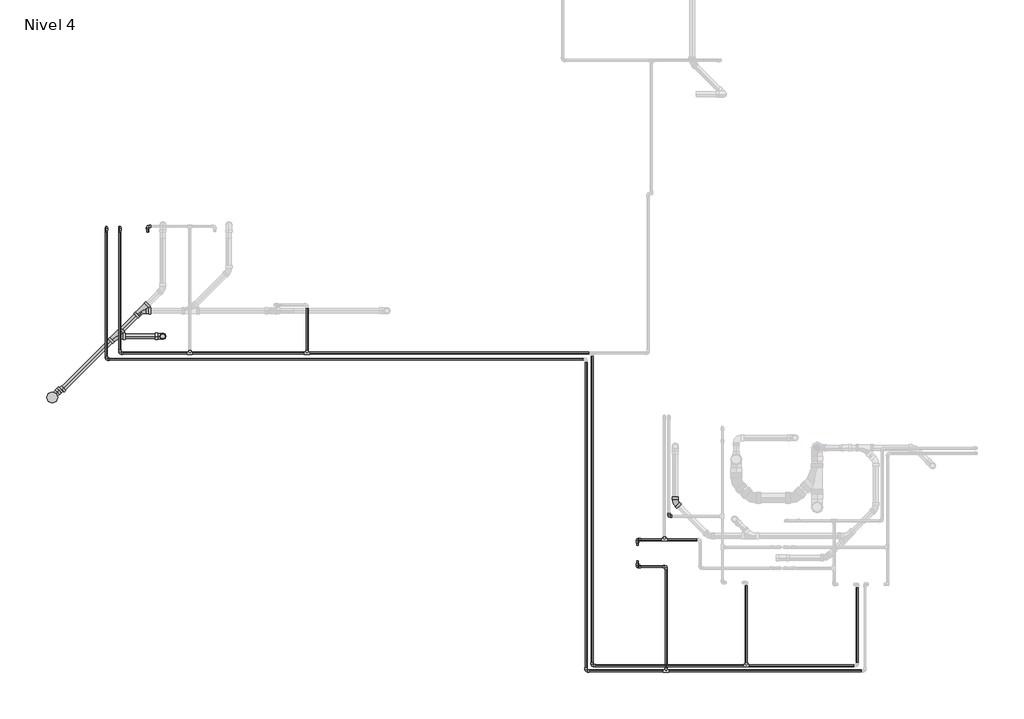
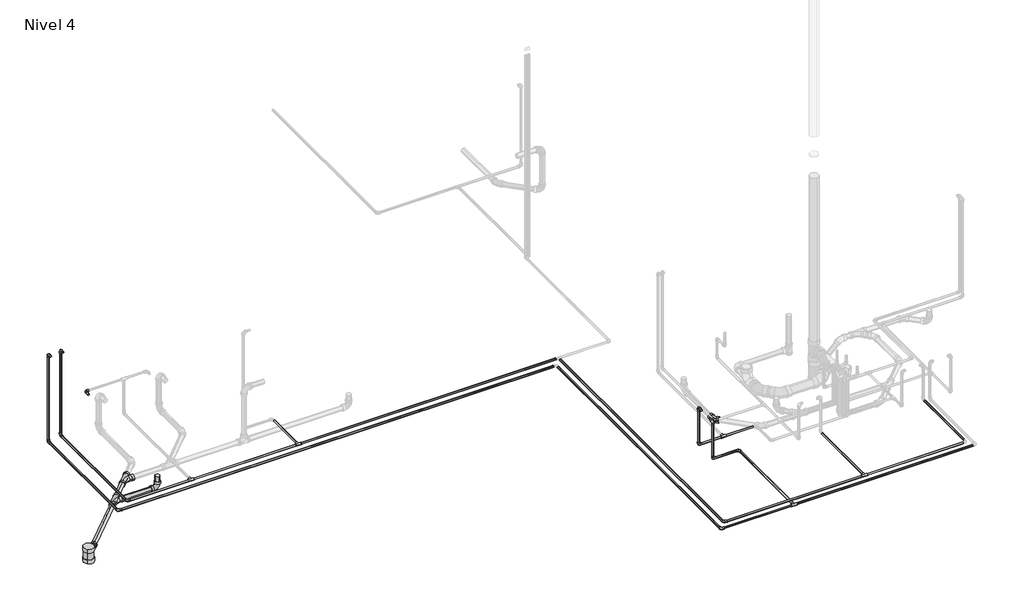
# One storey, part 1 of 9: 32 pipe segments, 26 pipe fittings.
"""IFC4 building model written with IfcOpenShell, lengths in millimetres."""

from ifc_helpers import new_model, si_unit, point, frame, frame_2d, origin, place, context, project, spatial, circle_curve, trimmed, segment, composite_curve, outline, extrude, transform, mapped, element, save
from components import pipe_fitting_ab418b84, pipe_fitting_0163322b, pipe_fitting_f7ed332b, m_codo_pvc_serie_40_9ad74631, m_codo_pvc_serie_40_dwv1_5c0ec739, m_codo_pvc_serie_40_dwv1_6f1a2495, m_reductor_pvc_serie_40_dwv1_ff30086d

model = new_model("IFC4")

# Units and contexts
model_context = context("Model", 3, world=origin())
ifc_project = project(units=[si_unit("LENGTHUNIT", "METRE", prefix="MILLI")], contexts=[model_context])

# Site, building, storey
site = spatial("IfcSite", under=ifc_project)
building = spatial("IfcBuilding", under=site)
storey = spatial("IfcBuildingStorey", under=building, Name="Nivel 4", Elevation=8100.0)

# Pipe fittings
placement = place(None, origin())
pipe_fitting_shape = pipe_fitting_ab418b84(model_context)
element("IfcPipeFitting", 1, ObjectType="M_Te - PVC - Serie 40 : Estándar", at=placement, inside=storey, context=model_context, shape_type="MappedRepresentation", body=[
    mapped(pipe_fitting_shape, transform((1725.1353284, 7617.0181394, 8050.0), x_axis=(1.0, 0.0, 0.0), y_axis=(0.0, -1.0, 0.0), z_axis=(0.0, 0.0, -1.0))),
])
element("IfcPipeFitting", 2, ObjectType="M_Te - PVC - Serie 40 : Estándar", at=placement, inside=storey, context=model_context, shape_type="MappedRepresentation", body=[
    mapped(pipe_fitting_shape, transform((411.6630441, 7617.0181394, 8050.0), x_axis=(1.0, 0.0, 0.0), y_axis=(0.0, -1.0, 0.0), z_axis=(0.0, 0.0, -1.0))),
])
element("IfcPipeFitting", 3, ObjectType="M_Te - PVC - Serie 40 : Estándar", at=placement, inside=storey, context=model_context, shape_type="MappedRepresentation", body=[
    mapped(pipe_fitting_shape, transform((6640.0882468, 4117.0181394, 8050.0), x_axis=(-1.0, 0.0, 0.0), y_axis=(0.0, -1.0, 0.0), z_axis=(0.0, 0.0, 1.0))),
])
element("IfcPipeFitting", 4, ObjectType="M_Te - PVC - Serie 40 : Estándar", at=placement, inside=storey, context=model_context, shape_type="MappedRepresentation", body=[
    mapped(pipe_fitting_shape, transform((5743.2442783, 4058.5261191, 8020.0), x_axis=(-1.0, 0.0, 0.0), y_axis=(0.0, -1.0, 0.0), z_axis=(0.0, 0.0, 1.0))),
])
element("IfcPipeFitting", 5, ObjectType="M_Te - PVC - Serie 40 : Estándar", at=placement, inside=storey, context=model_context, shape_type="MappedRepresentation", body=[
    mapped(pipe_fitting_shape, transform((5723.2442783, 5526.6215833, 8020.0), x_axis=(-1.0, 0.0, 0.0), y_axis=(0.0, -1.0, 0.0), z_axis=(0.0, 0.0, 1.0))),
])
pipe_fitting_2_shape = pipe_fitting_0163322b(model_context)
element("IfcPipeFitting", 6, ObjectType="M_Sanitario con te de reducción - PVC - Serie 40 - DWV : Estándar", at=placement, inside=storey, context=model_context, shape_type="MappedRepresentation", body=[
    mapped(pipe_fitting_2_shape, transform((-133.7971122, 8091.4220022, 7950.0), x_axis=(0.7071067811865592, 0.7071067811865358, 0.0), y_axis=(-0.7071067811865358, 0.7071067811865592, 0.0), z_axis=(0.0, 0.0, 1.0))),
])
element("IfcPipeFitting", 7, ObjectType="M_Sanitario con te de reducción - PVC - Serie 40 - DWV : Estándar", at=placement, inside=storey, context=model_context, shape_type="MappedRepresentation", body=[
    mapped(pipe_fitting_2_shape, transform((-420.2517933, 7804.9673212, 7950.0), x_axis=(0.707106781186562, 0.707106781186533, 0.0), y_axis=(-0.707106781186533, 0.707106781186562, 0.0), z_axis=(0.0, 0.0, 1.0))),
])
pipe_fitting_3_shape = pipe_fitting_f7ed332b(model_context)
element("IfcPipeFitting", 8, ObjectType="M_Sanitario con te de reducción - PVC - Serie 40 - DWV : Estándar", at=placement, inside=storey, context=model_context, shape_type="MappedRepresentation", body=[
    mapped(pipe_fitting_3_shape, transform((-1128.3876566, 7119.3043981, 7950.0), x_axis=(0.0, 0.0, 1.0), y_axis=(-0.7071067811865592, -0.7071067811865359, 0.0), z_axis=(0.7071067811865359, -0.7071067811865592, 0.0))),
])
m_codo_pvc_serie_40_shape = m_codo_pvc_serie_40_9ad74631(model_context)
element("IfcPipeFitting", 9, ObjectType="M_Codo - PVC - Serie 40 : Estándar", at=placement, inside=storey, context=model_context, shape_type="MappedRepresentation", body=[
    mapped(m_codo_pvc_serie_40_shape, transform((-58.7971122, 9037.0181394, 8500.0), x_axis=(-1.0, 0.0, 0.0), y_axis=(0.0, -1.0, 0.0), z_axis=(0.0, 0.0, 1.0))),
])
element("IfcPipeFitting", 10, ObjectType="M_Codo - PVC - Serie 40 : Estándar", at=placement, inside=storey, context=model_context, shape_type="MappedRepresentation", body=[
    mapped(m_codo_pvc_serie_40_shape, transform((4915.0072403, 4117.0181394, 8050.0), x_axis=(0.0, -1.0, 0.0), y_axis=(1.0, 0.0, 0.0), z_axis=(0.0, 0.0, 1.0))),
])
element("IfcPipeFitting", 11, ObjectType="M_Codo - PVC - Serie 40 : Estándar", at=placement, inside=storey, context=model_context, shape_type="MappedRepresentation", body=[
    mapped(m_codo_pvc_serie_40_shape, transform((5773.4849581, 5788.5620607, 8050.0), x_axis=(0.0, -1.0, 0.0), y_axis=(1.0, 0.0, 0.0), z_axis=(0.0, 0.0, 1.0))),
])
element("IfcPipeFitting", 12, ObjectType="M_Codo - PVC - Serie 40 : Estándar", at=placement, inside=storey, context=model_context, shape_type="MappedRepresentation", body=[
    mapped(m_codo_pvc_serie_40_shape, transform((4848.2736664, 4058.5261191, 8020.0), x_axis=(0.0, -1.0, 0.0), y_axis=(1.0, 0.0, 0.0), z_axis=(0.0, 0.0, 1.0))),
])
element("IfcPipeFitting", 13, ObjectType="M_Codo - PVC - Serie 40 : Estándar", at=placement, inside=storey, context=model_context, shape_type="MappedRepresentation", body=[
    mapped(m_codo_pvc_serie_40_shape, transform((5743.2442783, 5226.6215833, 8020.0), x_axis=(0.0, 1.0, 0.0), y_axis=(-1.0, 0.0, 0.0), z_axis=(0.0, 0.0, 1.0))),
])
element("IfcPipeFitting", 14, ObjectType="M_Codo - PVC - Serie 40 : Estándar", at=placement, inside=storey, context=model_context, shape_type="MappedRepresentation", body=[
    mapped(m_codo_pvc_serie_40_shape, transform((5423.2442783, 5226.6215833, 8020.0), x_axis=(-1.0, 0.0, 0.0), y_axis=(0.0, 0.0, 1.0), z_axis=(0.0, 1.0, 0.0))),
])
element("IfcPipeFitting", 15, ObjectType="M_Codo - PVC - Serie 40 : Estándar", at=placement, inside=storey, context=model_context, shape_type="MappedRepresentation", body=[
    mapped(m_codo_pvc_serie_40_shape, transform((5423.2442783, 5226.6215833, 8500.0), x_axis=(0.0, 0.0, 1.0), y_axis=(0.0, 1.0, 0.0), z_axis=(-1.0, 0.0, 0.0))),
])
element("IfcPipeFitting", 16, ObjectType="M_Codo - PVC - Serie 40 : Estándar", at=placement, inside=storey, context=model_context, shape_type="MappedRepresentation", body=[
    mapped(m_codo_pvc_serie_40_shape, transform((5423.2442783, 5526.6215833, 8500.0), x_axis=(0.0, 1.0, 0.0), y_axis=(0.0, 0.0, -1.0), z_axis=(-1.0, 0.0, 0.0))),
])
element("IfcPipeFitting", 17, ObjectType="M_Codo - PVC - Serie 40 : Estándar", at=placement, inside=storey, context=model_context, shape_type="MappedRepresentation", body=[
    mapped(m_codo_pvc_serie_40_shape, transform((5423.2442783, 5526.6215833, 8020.0), x_axis=(0.0, 0.0, -1.0), y_axis=(1.0, 0.0, 0.0), z_axis=(0.0, -1.0, 0.0))),
])
element("IfcPipeFitting", 18, ObjectType="M_Codo - PVC - Serie 40 : Estándar", at=placement, inside=storey, context=model_context, shape_type="MappedRepresentation", body=[
    mapped(m_codo_pvc_serie_40_shape, transform((-371.1059876, 9024.8728829, 9150.0), x_axis=(0.0, 1.0, 0.0), y_axis=(0.0, 0.0, -1.0), z_axis=(-1.0, 0.0, 0.0))),
])
element("IfcPipeFitting", 19, ObjectType="M_Codo - PVC - Serie 40 : Estándar", at=placement, inside=storey, context=model_context, shape_type="MappedRepresentation", body=[
    mapped(m_codo_pvc_serie_40_shape, transform((-371.1059876, 9024.8728829, 8050.0), x_axis=(0.0, 0.0, -1.0), y_axis=(0.0, -1.0, 0.0), z_axis=(-1.0, 0.0, 0.0))),
])
element("IfcPipeFitting", 20, ObjectType="M_Codo - PVC - Serie 40 : Estándar", at=placement, inside=storey, context=model_context, shape_type="MappedRepresentation", body=[
    mapped(m_codo_pvc_serie_40_shape, transform((-521.1059876, 9024.8728829, 9150.0), x_axis=(0.0, 1.0, 0.0), y_axis=(0.0, 0.0, -1.0), z_axis=(-1.0, 0.0, 0.0))),
])
element("IfcPipeFitting", 21, ObjectType="M_Codo - PVC - Serie 40 : Estándar", at=placement, inside=storey, context=model_context, shape_type="MappedRepresentation", body=[
    mapped(m_codo_pvc_serie_40_shape, transform((-521.1059876, 9024.8728829, 8020.0), x_axis=(0.0, 0.0, -1.0), y_axis=(0.0, -1.0, 0.0), z_axis=(-1.0, 0.0, 0.0))),
])
element("IfcPipeFitting", 22, ObjectType="M_Codo - PVC - Serie 40 : Estándar", at=placement, inside=storey, context=model_context, shape_type="MappedRepresentation", body=[
    mapped(m_codo_pvc_serie_40_shape, transform((-521.1059876, 7548.5261191, 8020.0), x_axis=(0.0, -1.0, 0.0), y_axis=(1.0, 0.0, 0.0), z_axis=(0.0, 0.0, 1.0))),
])
element("IfcPipeFitting", 23, ObjectType="M_Codo - PVC - Serie 40 : Estándar", at=placement, inside=storey, context=model_context, shape_type="MappedRepresentation", body=[
    mapped(m_codo_pvc_serie_40_shape, transform((-371.1059876, 7617.0181394, 8050.0), x_axis=(0.0, -1.0, 0.0), y_axis=(1.0, 0.0, 0.0), z_axis=(0.0, 0.0, 1.0))),
])
m_codo_pvc_serie_40_dwv1_shape = m_codo_pvc_serie_40_dwv1_5c0ec739(model_context)
element("IfcPipeFitting", 24, ObjectType="M_Codo - PVC - Serie 40 - DWV1 : Estándar 2", at=placement, inside=storey, context=model_context, shape_type="MappedRepresentation", body=[
    mapped(m_codo_pvc_serie_40_dwv1_shape, transform((109.5958692, 7804.9673212, 7950.0), x_axis=(1.0, 0.0, 0.0), y_axis=(0.0, 0.0, 1.0), z_axis=(0.0, -1.0, 0.0))),
])
m_codo_pvc_serie_40_dwv1_2_shape = m_codo_pvc_serie_40_dwv1_6f1a2495(model_context)
element("IfcPipeFitting", 25, ObjectType="M_Codo - PVC - Serie 40 - DWV1 : Estándar 2", at=placement, inside=storey, context=model_context, shape_type="MappedRepresentation", body=[
    mapped(m_codo_pvc_serie_40_dwv1_2_shape, transform((5845.3355737, 5944.0282832, 7950.0), x_axis=(0.0, -1.0, 0.0), y_axis=(1.0, 0.0, 0.0), z_axis=(0.0, 0.0, 1.0))),
])
m_reductor_pvc_serie_40_dwv1_shape = m_reductor_pvc_serie_40_dwv1_ff30086d(model_context)
element("IfcPipeFitting", 26, ObjectType="M_Reductor - PVC - Serie 40 - DWV1 : Estándar 2", at=placement, inside=storey, context=model_context, shape_type="MappedRepresentation", body=[
    mapped(m_reductor_pvc_serie_40_dwv1_shape, transform((-1051.5138579, 7196.1781968, 7950.0), x_axis=(0.7071067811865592, 0.7071067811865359, 0.0), y_axis=(-0.7071067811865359, 0.7071067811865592, 0.0), z_axis=(0.0, 0.0, 1.0))),
])

# Pipe segments
element("IfcPipeSegment", 27, ObjectType="Tuberia PVC Agua Fria", at=placement, inside=storey, context=model_context, shape_type="SweptSolid", body=[
    extrude(outline(composite_curve([segment(trimmed(circle_curve(frame_2d((8050.0, 1725.1353284)), 10.31875), [point((8050.0, 1735.4540784))], [point((8060.31875, 1725.1353284))], False, "CARTESIAN"), True, "CONTINUOUS"), segment(trimmed(circle_curve(frame_2d((8050.0, 1725.1353284)), 10.31875), [point((8060.31875, 1725.1353284))], [point((8050.0, 1714.8165784))], False, "CARTESIAN"), True, "CONTINUOUS"), segment(trimmed(circle_curve(frame_2d((8050.0, 1725.1353284)), 10.31875), [point((8050.0, 1714.8165784))], [point((8039.68125, 1725.1353284))], False, "CARTESIAN"), True, "CONTINUOUS"), segment(trimmed(circle_curve(frame_2d((8050.0, 1725.1353284)), 10.31875), [point((8039.68125, 1725.1353284))], [point((8050.0, 1735.4540784))], False, "CARTESIAN"), True, "CONTINUOUS")], self_intersect=False)), frame((0.0, 7647.4782956, 0.0), z_axis=(0.0, 1.0, 0.0), x_axis=(0.0, 0.0, 1.0)), (0.0, 0.0, 1.0), 476.1388438),
])
element("IfcPipeSegment", 28, ObjectType="Tuberia PVC Agua Fria", at=placement, inside=storey, context=model_context, shape_type="SweptSolid", body=[
    extrude(outline(composite_curve([segment(trimmed(circle_curve(frame_2d((7617.0181394, 8050.0)), 10.31875), [point((7627.3368894, 8050.0))], [point((7617.0181394, 8039.68125))], False, "CARTESIAN"), True, "CONTINUOUS"), segment(trimmed(circle_curve(frame_2d((7617.0181394, 8050.0)), 10.31875), [point((7617.0181394, 8039.68125))], [point((7606.6993894, 8050.0))], False, "CARTESIAN"), True, "CONTINUOUS"), segment(trimmed(circle_curve(frame_2d((7617.0181394, 8050.0)), 10.31875), [point((7606.6993894, 8050.0))], [point((7617.0181394, 8060.31875))], False, "CARTESIAN"), True, "CONTINUOUS"), segment(trimmed(circle_curve(frame_2d((7617.0181394, 8050.0)), 10.31875), [point((7617.0181394, 8060.31875))], [point((7627.3368894, 8050.0))], False, "CARTESIAN"), True, "CONTINUOUS")], self_intersect=False)), frame((1755.5954847, 0.0, 0.0), z_axis=(1.0, 0.0, 0.0), x_axis=(0.0, 1.0, 0.0)), (0.0, 0.0, 1.0), 3128.9515994),
])
element("IfcPipeSegment", 29, ObjectType="Tuberia PVC Agua Fria", at=placement, inside=storey, context=model_context, shape_type="SweptSolid", body=[
    extrude(outline(composite_curve([segment(trimmed(circle_curve(frame_2d((7617.0181394, 8050.0)), 10.31875), [point((7627.3368894, 8050.0))], [point((7617.0181394, 8039.68125))], False, "CARTESIAN"), True, "CONTINUOUS"), segment(trimmed(circle_curve(frame_2d((7617.0181394, 8050.0)), 10.31875), [point((7617.0181394, 8039.68125))], [point((7606.6993894, 8050.0))], False, "CARTESIAN"), True, "CONTINUOUS"), segment(trimmed(circle_curve(frame_2d((7617.0181394, 8050.0)), 10.31875), [point((7606.6993894, 8050.0))], [point((7617.0181394, 8060.31875))], False, "CARTESIAN"), True, "CONTINUOUS"), segment(trimmed(circle_curve(frame_2d((7617.0181394, 8050.0)), 10.31875), [point((7617.0181394, 8060.31875))], [point((7627.3368894, 8050.0))], False, "CARTESIAN"), True, "CONTINUOUS")], self_intersect=False)), frame((-337.7049876, 0.0, 0.0), z_axis=(1.0, 0.0, 0.0), x_axis=(0.0, 1.0, 0.0)), (0.0, 0.0, 1.0), 718.9078754),
])
element("IfcPipeSegment", 30, ObjectType="Tuberia PVC Agua Fria", at=placement, inside=storey, context=model_context, shape_type="SweptSolid", body=[
    extrude(outline(composite_curve([segment(trimmed(circle_curve(frame_2d((8050.0, -371.1059876)), 10.31875), [point((8050.0, -381.4247376))], [point((8039.68125, -371.1059876))], False, "CARTESIAN"), True, "CONTINUOUS"), segment(trimmed(circle_curve(frame_2d((8050.0, -371.1059876)), 10.31875), [point((8039.68125, -371.1059876))], [point((8050.0, -360.7872376))], False, "CARTESIAN"), True, "CONTINUOUS"), segment(trimmed(circle_curve(frame_2d((8050.0, -371.1059876)), 10.31875), [point((8050.0, -360.7872376))], [point((8060.31875, -371.1059876))], False, "CARTESIAN"), True, "CONTINUOUS"), segment(trimmed(circle_curve(frame_2d((8050.0, -371.1059876)), 10.31875), [point((8060.31875, -371.1059876))], [point((8050.0, -381.4247376))], False, "CARTESIAN"), True, "CONTINUOUS")], self_intersect=False)), frame((0.0, 7650.4191394, 0.0), z_axis=(0.0, 1.0, 0.0), x_axis=(0.0, 0.0, 1.0)), (0.0, 0.0, 1.0), 1341.0527435),
])
element("IfcPipeSegment", 31, ObjectType="Tuberia PVC Agua Fria", at=placement, inside=storey, context=model_context, shape_type="SweptSolid", body=[
    extrude(outline(composite_curve([segment(trimmed(circle_curve(frame_2d((7617.0181394, 8050.0)), 10.31875), [point((7627.3368894, 8050.0))], [point((7617.0181394, 8039.68125))], False, "CARTESIAN"), True, "CONTINUOUS"), segment(trimmed(circle_curve(frame_2d((7617.0181394, 8050.0)), 10.31875), [point((7617.0181394, 8039.68125))], [point((7606.6993894, 8050.0))], False, "CARTESIAN"), True, "CONTINUOUS"), segment(trimmed(circle_curve(frame_2d((7617.0181394, 8050.0)), 10.31875), [point((7606.6993894, 8050.0))], [point((7617.0181394, 8060.31875))], False, "CARTESIAN"), True, "CONTINUOUS"), segment(trimmed(circle_curve(frame_2d((7617.0181394, 8050.0)), 10.31875), [point((7617.0181394, 8060.31875))], [point((7627.3368894, 8050.0))], False, "CARTESIAN"), True, "CONTINUOUS")], self_intersect=False)), frame((442.1232003, 0.0, 0.0), z_axis=(1.0, 0.0, 0.0), x_axis=(0.0, 1.0, 0.0)), (0.0, 0.0, 1.0), 1252.5519718),
])
element("IfcPipeSegment", 32, ObjectType="Tuberia PVC Agua Fria", at=placement, inside=storey, context=model_context, shape_type="SweptSolid", body=[
    extrude(outline(composite_curve([segment(trimmed(circle_curve(frame_2d((8500.0, -58.7971122)), 10.31875), [point((8500.0, -69.1158622))], [point((8489.68125, -58.7971122))], False, "CARTESIAN"), True, "CONTINUOUS"), segment(trimmed(circle_curve(frame_2d((8500.0, -58.7971122)), 10.31875), [point((8489.68125, -58.7971122))], [point((8500.0, -48.4783622))], False, "CARTESIAN"), True, "CONTINUOUS"), segment(trimmed(circle_curve(frame_2d((8500.0, -58.7971122)), 10.31875), [point((8500.0, -48.4783622))], [point((8510.31875, -58.7971122))], False, "CARTESIAN"), True, "CONTINUOUS"), segment(trimmed(circle_curve(frame_2d((8500.0, -58.7971122)), 10.31875), [point((8510.31875, -58.7971122))], [point((8500.0, -69.1158622))], False, "CARTESIAN"), True, "CONTINUOUS")], self_intersect=False)), frame((0.0, 8972.0181394, 0.0), z_axis=(0.0, 1.0, 0.0), x_axis=(0.0, 0.0, 1.0)), (0.0, 0.0, 1.0), 31.599),
])
element("IfcPipeSegment", 33, ObjectType="Tuberia PVC Agua Fria", at=placement, inside=storey, context=model_context, shape_type="SweptSolid", body=[
    extrude(outline(composite_curve([segment(trimmed(circle_curve(frame_2d((8050.0, 4915.0072403)), 10.31875), [point((8050.0, 4904.6884903))], [point((8039.68125, 4915.0072403))], False, "CARTESIAN"), True, "CONTINUOUS"), segment(trimmed(circle_curve(frame_2d((8050.0, 4915.0072403)), 10.31875), [point((8039.68125, 4915.0072403))], [point((8050.0, 4925.3259903))], False, "CARTESIAN"), True, "CONTINUOUS"), segment(trimmed(circle_curve(frame_2d((8050.0, 4915.0072403)), 10.31875), [point((8050.0, 4925.3259903))], [point((8060.31875, 4915.0072403))], False, "CARTESIAN"), True, "CONTINUOUS"), segment(trimmed(circle_curve(frame_2d((8050.0, 4915.0072403)), 10.31875), [point((8060.31875, 4915.0072403))], [point((8050.0, 4904.6884903))], False, "CARTESIAN"), True, "CONTINUOUS")], self_intersect=False)), frame((0.0, 4150.4191394, 0.0), z_axis=(0.0, 1.0, 0.0), x_axis=(0.0, 0.0, 1.0)), (0.0, 0.0, 1.0), 3436.1388437),
])
element("IfcPipeSegment", 34, ObjectType="Tuberia PVC Agua Fria", at=placement, inside=storey, context=model_context, shape_type="SweptSolid", body=[
    extrude(outline(composite_curve([segment(trimmed(circle_curve(frame_2d((4117.0181394, 8050.0)), 10.31875), [point((4127.3368894, 8050.0))], [point((4117.0181394, 8039.68125))], False, "CARTESIAN"), True, "CONTINUOUS"), segment(trimmed(circle_curve(frame_2d((4117.0181394, 8050.0)), 10.31875), [point((4117.0181394, 8039.68125))], [point((4106.6993894, 8050.0))], False, "CARTESIAN"), True, "CONTINUOUS"), segment(trimmed(circle_curve(frame_2d((4117.0181394, 8050.0)), 10.31875), [point((4106.6993894, 8050.0))], [point((4117.0181394, 8060.31875))], False, "CARTESIAN"), True, "CONTINUOUS"), segment(trimmed(circle_curve(frame_2d((4117.0181394, 8050.0)), 10.31875), [point((4117.0181394, 8060.31875))], [point((4127.3368894, 8050.0))], False, "CARTESIAN"), True, "CONTINUOUS")], self_intersect=False)), frame((6670.5484031, 0.0, 0.0), z_axis=(1.0, 0.0, 0.0), x_axis=(0.0, 1.0, 0.0)), (0.0, 0.0, 1.0), 1178.9730095),
])
element("IfcPipeSegment", 35, ObjectType="Tuberia PVC Agua Fria", at=placement, inside=storey, context=model_context, shape_type="SweptSolid", body=[
    extrude(outline(composite_curve([segment(trimmed(circle_curve(frame_2d((8050.0, 6640.0882468)), 10.31875), [point((8050.0, 6650.4069968))], [point((8060.31875, 6640.0882468))], False, "CARTESIAN"), True, "CONTINUOUS"), segment(trimmed(circle_curve(frame_2d((8050.0, 6640.0882468)), 10.31875), [point((8060.31875, 6640.0882468))], [point((8050.0, 6629.7694968))], False, "CARTESIAN"), True, "CONTINUOUS"), segment(trimmed(circle_curve(frame_2d((8050.0, 6640.0882468)), 10.31875), [point((8050.0, 6629.7694968))], [point((8039.68125, 6640.0882468))], False, "CARTESIAN"), True, "CONTINUOUS"), segment(trimmed(circle_curve(frame_2d((8050.0, 6640.0882468)), 10.31875), [point((8039.68125, 6640.0882468))], [point((8050.0, 6650.4069968))], False, "CARTESIAN"), True, "CONTINUOUS")], self_intersect=False)), frame((0.0, 4147.4782956, 0.0), z_axis=(0.0, 1.0, 0.0), x_axis=(0.0, 0.0, 1.0)), (0.0, 0.0, 1.0), 866.1388437),
])
element("IfcPipeSegment", 36, ObjectType="Tuberia PVC Agua Fria", at=placement, inside=storey, context=model_context, shape_type="SweptSolid", body=[
    extrude(outline(composite_curve([segment(trimmed(circle_curve(frame_2d((4117.0181394, 8050.0)), 10.31875), [point((4106.6993894, 8050.0))], [point((4117.0181394, 8060.31875))], False, "CARTESIAN"), True, "CONTINUOUS"), segment(trimmed(circle_curve(frame_2d((4117.0181394, 8050.0)), 10.31875), [point((4117.0181394, 8060.31875))], [point((4127.3368894, 8050.0))], False, "CARTESIAN"), True, "CONTINUOUS"), segment(trimmed(circle_curve(frame_2d((4117.0181394, 8050.0)), 10.31875), [point((4127.3368894, 8050.0))], [point((4117.0181394, 8039.68125))], False, "CARTESIAN"), True, "CONTINUOUS"), segment(trimmed(circle_curve(frame_2d((4117.0181394, 8050.0)), 10.31875), [point((4117.0181394, 8039.68125))], [point((4106.6993894, 8050.0))], False, "CARTESIAN"), True, "CONTINUOUS")], self_intersect=False)), frame((4948.4082403, 0.0, 0.0), z_axis=(1.0, 0.0, 0.0), x_axis=(0.0, 1.0, 0.0)), (0.0, 0.0, 1.0), 1661.2198503),
])
element("IfcPipeSegment", 37, ObjectType="Tuberia PVC Agua Fria", at=placement, inside=storey, context=model_context, shape_type="SweptSolid", body=[
    extrude(outline(composite_curve([segment(trimmed(circle_curve(frame_2d((8050.0, 7882.9224126)), 10.31875), [point((8050.0, 7872.6036626))], [point((8039.68125, 7882.9224126))], False, "CARTESIAN"), True, "CONTINUOUS"), segment(trimmed(circle_curve(frame_2d((8050.0, 7882.9224126)), 10.31875), [point((8039.68125, 7882.9224126))], [point((8050.0, 7893.2411626))], False, "CARTESIAN"), True, "CONTINUOUS"), segment(trimmed(circle_curve(frame_2d((8050.0, 7882.9224126)), 10.31875), [point((8050.0, 7893.2411626))], [point((8060.31875, 7882.9224126))], False, "CARTESIAN"), True, "CONTINUOUS"), segment(trimmed(circle_curve(frame_2d((8050.0, 7882.9224126)), 10.31875), [point((8060.31875, 7882.9224126))], [point((8050.0, 7872.6036626))], False, "CARTESIAN"), True, "CONTINUOUS")], self_intersect=False)), frame((0.0, 4150.4191394, 0.0), z_axis=(0.0, 1.0, 0.0), x_axis=(0.0, 0.0, 1.0)), (0.0, 0.0, 1.0), 842.801444),
])
element("IfcPipeSegment", 38, ObjectType="Tuberia PVC Agua Fria", at=placement, inside=storey, context=model_context, shape_type="SweptSolid", body=[
    extrude(outline(composite_curve([segment(trimmed(circle_curve(frame_2d((9150.0, -371.1059876)), 10.31875), [point((9150.0, -360.7872376))], [point((9160.31875, -371.1059876))], False, "CARTESIAN"), True, "CONTINUOUS"), segment(trimmed(circle_curve(frame_2d((9150.0, -371.1059876)), 10.31875), [point((9160.31875, -371.1059876))], [point((9150.0, -381.4247376))], False, "CARTESIAN"), True, "CONTINUOUS"), segment(trimmed(circle_curve(frame_2d((9150.0, -371.1059876)), 10.31875), [point((9150.0, -381.4247376))], [point((9139.68125, -371.1059876))], False, "CARTESIAN"), True, "CONTINUOUS"), segment(trimmed(circle_curve(frame_2d((9150.0, -371.1059876)), 10.31875), [point((9139.68125, -371.1059876))], [point((9150.0, -360.7872376))], False, "CARTESIAN"), True, "CONTINUOUS")], self_intersect=False)), frame((0.0, 8974.8728829, 0.0), z_axis=(0.0, 1.0, 0.0), x_axis=(0.0, 0.0, 1.0)), (0.0, 0.0, 1.0), 16.599),
])
element("IfcPipeSegment", 39, ObjectType="Tuberia PVC Agua Fria", at=placement, inside=storey, context=model_context, shape_type="SweptSolid", body=[
    extrude(outline(composite_curve([segment(trimmed(circle_curve(frame_2d((-371.1059876, 9024.8728829)), 10.31875), [point((-360.7872376, 9024.8728829))], [point((-371.1059876, 9014.5541329))], False, "CARTESIAN"), True, "CONTINUOUS"), segment(trimmed(circle_curve(frame_2d((-371.1059876, 9024.8728829)), 10.31875), [point((-371.1059876, 9014.5541329))], [point((-381.4247376, 9024.8728829))], False, "CARTESIAN"), True, "CONTINUOUS"), segment(trimmed(circle_curve(frame_2d((-371.1059876, 9024.8728829)), 10.31875), [point((-381.4247376, 9024.8728829))], [point((-371.1059876, 9035.1916329))], False, "CARTESIAN"), True, "CONTINUOUS"), segment(trimmed(circle_curve(frame_2d((-371.1059876, 9024.8728829)), 10.31875), [point((-371.1059876, 9035.1916329))], [point((-360.7872376, 9024.8728829))], False, "CARTESIAN"), True, "CONTINUOUS")], self_intersect=False)), frame((0.0, 0.0, 8083.401), z_axis=(0.0, 0.0, 1.0), x_axis=(1.0, 0.0, 0.0)), (0.0, 0.0, 1.0), 1033.198),
])
element("IfcPipeSegment", 40, ObjectType="Tuberia PVC Agua Caliente", at=placement, inside=storey, context=model_context, shape_type="SweptSolid", body=[
    extrude(outline(composite_curve([segment(trimmed(circle_curve(frame_2d((8020.0, -521.1059876)), 10.31875), [point((8020.0, -531.4247376))], [point((8009.68125, -521.1059876))], False, "CARTESIAN"), True, "CONTINUOUS"), segment(trimmed(circle_curve(frame_2d((8020.0, -521.1059876)), 10.31875), [point((8009.68125, -521.1059876))], [point((8020.0, -510.7872376))], False, "CARTESIAN"), True, "CONTINUOUS"), segment(trimmed(circle_curve(frame_2d((8020.0, -521.1059876)), 10.31875), [point((8020.0, -510.7872376))], [point((8030.31875, -521.1059876))], False, "CARTESIAN"), True, "CONTINUOUS"), segment(trimmed(circle_curve(frame_2d((8020.0, -521.1059876)), 10.31875), [point((8030.31875, -521.1059876))], [point((8020.0, -531.4247376))], False, "CARTESIAN"), True, "CONTINUOUS")], self_intersect=False)), frame((0.0, 7581.9271191, 0.0), z_axis=(0.0, 1.0, 0.0), x_axis=(0.0, 0.0, 1.0)), (0.0, 0.0, 1.0), 1409.5447638),
])
element("IfcPipeSegment", 41, ObjectType="Tuberia PVC Agua Caliente", at=placement, inside=storey, context=model_context, shape_type="SweptSolid", body=[
    extrude(outline(composite_curve([segment(trimmed(circle_curve(frame_2d((7548.5261191, 8020.0)), 10.31875), [point((7538.2073691, 8020.0))], [point((7548.5261191, 8030.31875))], False, "CARTESIAN"), True, "CONTINUOUS"), segment(trimmed(circle_curve(frame_2d((7548.5261191, 8020.0)), 10.31875), [point((7548.5261191, 8030.31875))], [point((7558.8448691, 8020.0))], False, "CARTESIAN"), True, "CONTINUOUS"), segment(trimmed(circle_curve(frame_2d((7548.5261191, 8020.0)), 10.31875), [point((7558.8448691, 8020.0))], [point((7548.5261191, 8009.68125))], False, "CARTESIAN"), True, "CONTINUOUS"), segment(trimmed(circle_curve(frame_2d((7548.5261191, 8020.0)), 10.31875), [point((7548.5261191, 8009.68125))], [point((7538.2073691, 8020.0))], False, "CARTESIAN"), True, "CONTINUOUS")], self_intersect=False)), frame((-487.7049876, 0.0, 0.0), z_axis=(1.0, 0.0, 0.0), x_axis=(0.0, 1.0, 0.0)), (0.0, 0.0, 1.0), 5302.5776539),
])
element("IfcPipeSegment", 42, ObjectType="Tuberia PVC Agua Caliente", at=placement, inside=storey, context=model_context, shape_type="SweptSolid", body=[
    extrude(outline(composite_curve([segment(trimmed(circle_curve(frame_2d((8020.0, 4848.2736664)), 10.31875), [point((8020.0, 4837.9549164))], [point((8009.68125, 4848.2736664))], False, "CARTESIAN"), True, "CONTINUOUS"), segment(trimmed(circle_curve(frame_2d((8020.0, 4848.2736664)), 10.31875), [point((8009.68125, 4848.2736664))], [point((8020.0, 4858.5924164))], False, "CARTESIAN"), True, "CONTINUOUS"), segment(trimmed(circle_curve(frame_2d((8020.0, 4848.2736664)), 10.31875), [point((8020.0, 4858.5924164))], [point((8030.31875, 4848.2736664))], False, "CARTESIAN"), True, "CONTINUOUS"), segment(trimmed(circle_curve(frame_2d((8020.0, 4848.2736664)), 10.31875), [point((8030.31875, 4848.2736664))], [point((8020.0, 4837.9549164))], False, "CARTESIAN"), True, "CONTINUOUS")], self_intersect=False)), frame((0.0, 4091.9271191, 0.0), z_axis=(0.0, 1.0, 0.0), x_axis=(0.0, 0.0, 1.0)), (0.0, 0.0, 1.0), 3423.198),
])
element("IfcPipeSegment", 43, ObjectType="Tuberia PVC Agua Caliente", at=placement, inside=storey, context=model_context, shape_type="SweptSolid", body=[
    extrude(outline(composite_curve([segment(trimmed(circle_curve(frame_2d((4058.5261191, 8020.0)), 10.31875), [point((4048.2073691, 8020.0))], [point((4058.5261191, 8030.31875))], False, "CARTESIAN"), True, "CONTINUOUS"), segment(trimmed(circle_curve(frame_2d((4058.5261191, 8020.0)), 10.31875), [point((4058.5261191, 8030.31875))], [point((4068.8448691, 8020.0))], False, "CARTESIAN"), True, "CONTINUOUS"), segment(trimmed(circle_curve(frame_2d((4058.5261191, 8020.0)), 10.31875), [point((4068.8448691, 8020.0))], [point((4058.5261191, 8009.68125))], False, "CARTESIAN"), True, "CONTINUOUS"), segment(trimmed(circle_curve(frame_2d((4058.5261191, 8020.0)), 10.31875), [point((4058.5261191, 8009.68125))], [point((4048.2073691, 8020.0))], False, "CARTESIAN"), True, "CONTINUOUS")], self_intersect=False)), frame((5773.7044346, 0.0, 0.0), z_axis=(1.0, 0.0, 0.0), x_axis=(0.0, 1.0, 0.0)), (0.0, 0.0, 1.0), 2161.1682318),
])
element("IfcPipeSegment", 44, ObjectType="Tuberia PVC Agua Caliente", at=placement, inside=storey, context=model_context, shape_type="SweptSolid", body=[
    extrude(outline(composite_curve([segment(trimmed(circle_curve(frame_2d((8020.0, 5743.2442783)), 10.31875), [point((8020.0, 5753.5630283))], [point((8030.31875, 5743.2442783))], False, "CARTESIAN"), True, "CONTINUOUS"), segment(trimmed(circle_curve(frame_2d((8020.0, 5743.2442783)), 10.31875), [point((8030.31875, 5743.2442783))], [point((8020.0, 5732.9255283))], False, "CARTESIAN"), True, "CONTINUOUS"), segment(trimmed(circle_curve(frame_2d((8020.0, 5743.2442783)), 10.31875), [point((8020.0, 5732.9255283))], [point((8009.68125, 5743.2442783))], False, "CARTESIAN"), True, "CONTINUOUS"), segment(trimmed(circle_curve(frame_2d((8020.0, 5743.2442783)), 10.31875), [point((8009.68125, 5743.2442783))], [point((8020.0, 5753.5630283))], False, "CARTESIAN"), True, "CONTINUOUS")], self_intersect=False)), frame((0.0, 4088.9862753, 0.0), z_axis=(0.0, 1.0, 0.0), x_axis=(0.0, 0.0, 1.0)), (0.0, 0.0, 1.0), 1104.234308),
])
element("IfcPipeSegment", 45, ObjectType="Tuberia PVC Agua Caliente", at=placement, inside=storey, context=model_context, shape_type="SweptSolid", body=[
    extrude(outline(composite_curve([segment(trimmed(circle_curve(frame_2d((4058.5261191, 8020.0)), 10.31875), [point((4048.2073691, 8020.0))], [point((4058.5261191, 8030.31875))], False, "CARTESIAN"), True, "CONTINUOUS"), segment(trimmed(circle_curve(frame_2d((4058.5261191, 8020.0)), 10.31875), [point((4058.5261191, 8030.31875))], [point((4068.8448691, 8020.0))], False, "CARTESIAN"), True, "CONTINUOUS"), segment(trimmed(circle_curve(frame_2d((4058.5261191, 8020.0)), 10.31875), [point((4068.8448691, 8020.0))], [point((4058.5261191, 8009.68125))], False, "CARTESIAN"), True, "CONTINUOUS"), segment(trimmed(circle_curve(frame_2d((4058.5261191, 8020.0)), 10.31875), [point((4058.5261191, 8009.68125))], [point((4048.2073691, 8020.0))], False, "CARTESIAN"), True, "CONTINUOUS")], self_intersect=False)), frame((4881.6746664, 0.0, 0.0), z_axis=(1.0, 0.0, 0.0), x_axis=(0.0, 1.0, 0.0)), (0.0, 0.0, 1.0), 831.1094557),
])
element("IfcPipeSegment", 46, ObjectType="Tuberia PVC Agua Caliente", at=placement, inside=storey, context=model_context, shape_type="SweptSolid", body=[
    extrude(outline(composite_curve([segment(trimmed(circle_curve(frame_2d((5226.6215833, 8020.0)), 10.31875), [point((5236.9403333, 8020.0))], [point((5226.6215833, 8009.68125))], False, "CARTESIAN"), True, "CONTINUOUS"), segment(trimmed(circle_curve(frame_2d((5226.6215833, 8020.0)), 10.31875), [point((5226.6215833, 8009.68125))], [point((5216.3028333, 8020.0))], False, "CARTESIAN"), True, "CONTINUOUS"), segment(trimmed(circle_curve(frame_2d((5226.6215833, 8020.0)), 10.31875), [point((5216.3028333, 8020.0))], [point((5226.6215833, 8030.31875))], False, "CARTESIAN"), True, "CONTINUOUS"), segment(trimmed(circle_curve(frame_2d((5226.6215833, 8020.0)), 10.31875), [point((5226.6215833, 8030.31875))], [point((5236.9403333, 8020.0))], False, "CARTESIAN"), True, "CONTINUOUS")], self_intersect=False)), frame((5456.6452783, 0.0, 0.0), z_axis=(1.0, 0.0, 0.0), x_axis=(0.0, 1.0, 0.0)), (0.0, 0.0, 1.0), 253.198),
])
element("IfcPipeSegment", 47, ObjectType="Tuberia PVC Agua Caliente", at=placement, inside=storey, context=model_context, shape_type="SweptSolid", body=[
    extrude(outline(composite_curve([segment(trimmed(circle_curve(frame_2d((8500.0, 5423.2442783)), 10.31875), [point((8500.0, 5433.5630283))], [point((8510.31875, 5423.2442783))], False, "CARTESIAN"), True, "CONTINUOUS"), segment(trimmed(circle_curve(frame_2d((8500.0, 5423.2442783)), 10.31875), [point((8510.31875, 5423.2442783))], [point((8500.0, 5412.9255283))], False, "CARTESIAN"), True, "CONTINUOUS"), segment(trimmed(circle_curve(frame_2d((8500.0, 5423.2442783)), 10.31875), [point((8500.0, 5412.9255283))], [point((8489.68125, 5423.2442783))], False, "CARTESIAN"), True, "CONTINUOUS"), segment(trimmed(circle_curve(frame_2d((8500.0, 5423.2442783)), 10.31875), [point((8489.68125, 5423.2442783))], [point((8500.0, 5433.5630283))], False, "CARTESIAN"), True, "CONTINUOUS")], self_intersect=False)), frame((0.0, 5465.6215833, 0.0), z_axis=(0.0, 1.0, 0.0), x_axis=(0.0, 0.0, 1.0)), (0.0, 0.0, 1.0), 27.599),
])
element("IfcPipeSegment", 48, ObjectType="Tuberia PVC Agua Caliente", at=placement, inside=storey, context=model_context, shape_type="SweptSolid", body=[
    extrude(outline(composite_curve([segment(trimmed(circle_curve(frame_2d((5423.2442783, 5226.6215833)), 10.31875), [point((5412.9255283, 5226.6215833))], [point((5423.2442783, 5236.9403333))], False, "CARTESIAN"), True, "CONTINUOUS"), segment(trimmed(circle_curve(frame_2d((5423.2442783, 5226.6215833)), 10.31875), [point((5423.2442783, 5236.9403333))], [point((5433.5630283, 5226.6215833))], False, "CARTESIAN"), True, "CONTINUOUS"), segment(trimmed(circle_curve(frame_2d((5423.2442783, 5226.6215833)), 10.31875), [point((5433.5630283, 5226.6215833))], [point((5423.2442783, 5216.3028333))], False, "CARTESIAN"), True, "CONTINUOUS"), segment(trimmed(circle_curve(frame_2d((5423.2442783, 5226.6215833)), 10.31875), [point((5423.2442783, 5216.3028333))], [point((5412.9255283, 5226.6215833))], False, "CARTESIAN"), True, "CONTINUOUS")], self_intersect=False)), frame((0.0, 0.0, 8053.401), z_axis=(0.0, 0.0, 1.0), x_axis=(1.0, 0.0, 0.0)), (0.0, 0.0, 1.0), 413.198),
])
element("IfcPipeSegment", 49, ObjectType="Tuberia PVC Agua Caliente", at=placement, inside=storey, context=model_context, shape_type="SweptSolid", body=[
    extrude(outline(composite_curve([segment(trimmed(circle_curve(frame_2d((5423.2442783, 5526.6215833)), 10.31875), [point((5433.5630283, 5526.6215833))], [point((5423.2442783, 5516.3028333))], False, "CARTESIAN"), True, "CONTINUOUS"), segment(trimmed(circle_curve(frame_2d((5423.2442783, 5526.6215833)), 10.31875), [point((5423.2442783, 5516.3028333))], [point((5412.9255283, 5526.6215833))], False, "CARTESIAN"), True, "CONTINUOUS"), segment(trimmed(circle_curve(frame_2d((5423.2442783, 5526.6215833)), 10.31875), [point((5412.9255283, 5526.6215833))], [point((5423.2442783, 5536.9403333))], False, "CARTESIAN"), True, "CONTINUOUS"), segment(trimmed(circle_curve(frame_2d((5423.2442783, 5526.6215833)), 10.31875), [point((5423.2442783, 5536.9403333))], [point((5433.5630283, 5526.6215833))], False, "CARTESIAN"), True, "CONTINUOUS")], self_intersect=False)), frame((0.0, 0.0, 8053.401), z_axis=(0.0, 0.0, 1.0), x_axis=(1.0, 0.0, 0.0)), (0.0, 0.0, 1.0), 413.198),
])
element("IfcPipeSegment", 50, ObjectType="Tuberia PVC Agua Caliente", at=placement, inside=storey, context=model_context, shape_type="SweptSolid", body=[
    extrude(outline(composite_curve([segment(trimmed(circle_curve(frame_2d((5526.6215833, 8020.0)), 10.31875), [point((5516.3028333, 8020.0))], [point((5526.6215833, 8030.31875))], False, "CARTESIAN"), True, "CONTINUOUS"), segment(trimmed(circle_curve(frame_2d((5526.6215833, 8020.0)), 10.31875), [point((5526.6215833, 8030.31875))], [point((5536.9403333, 8020.0))], False, "CARTESIAN"), True, "CONTINUOUS"), segment(trimmed(circle_curve(frame_2d((5526.6215833, 8020.0)), 10.31875), [point((5536.9403333, 8020.0))], [point((5526.6215833, 8009.68125))], False, "CARTESIAN"), True, "CONTINUOUS"), segment(trimmed(circle_curve(frame_2d((5526.6215833, 8020.0)), 10.31875), [point((5526.6215833, 8009.68125))], [point((5516.3028333, 8020.0))], False, "CARTESIAN"), True, "CONTINUOUS")], self_intersect=False)), frame((5753.7044346, 0.0, 0.0), z_axis=(1.0, 0.0, 0.0), x_axis=(0.0, 1.0, 0.0)), (0.0, 0.0, 1.0), 336.1388438),
])
element("IfcPipeSegment", 51, ObjectType="Tuberia PVC Agua Caliente", at=placement, inside=storey, context=model_context, shape_type="SweptSolid", body=[
    extrude(outline(composite_curve([segment(trimmed(circle_curve(frame_2d((5526.6215833, 8020.0)), 10.31875), [point((5516.3028333, 8020.0))], [point((5526.6215833, 8030.31875))], False, "CARTESIAN"), True, "CONTINUOUS"), segment(trimmed(circle_curve(frame_2d((5526.6215833, 8020.0)), 10.31875), [point((5526.6215833, 8030.31875))], [point((5536.9403333, 8020.0))], False, "CARTESIAN"), True, "CONTINUOUS"), segment(trimmed(circle_curve(frame_2d((5526.6215833, 8020.0)), 10.31875), [point((5536.9403333, 8020.0))], [point((5526.6215833, 8009.68125))], False, "CARTESIAN"), True, "CONTINUOUS"), segment(trimmed(circle_curve(frame_2d((5526.6215833, 8020.0)), 10.31875), [point((5526.6215833, 8009.68125))], [point((5516.3028333, 8020.0))], False, "CARTESIAN"), True, "CONTINUOUS")], self_intersect=False)), frame((5456.6452783, 0.0, 0.0), z_axis=(1.0, 0.0, 0.0), x_axis=(0.0, 1.0, 0.0)), (0.0, 0.0, 1.0), 236.1388438),
])
element("IfcPipeSegment", 52, ObjectType="Tuberia PVC Agua Caliente", at=placement, inside=storey, context=model_context, shape_type="SweptSolid", body=[
    extrude(outline(composite_curve([segment(trimmed(circle_curve(frame_2d((8500.0, 5423.2442783)), 10.31875), [point((8500.0, 5433.5630283))], [point((8510.31875, 5423.2442783))], False, "CARTESIAN"), True, "CONTINUOUS"), segment(trimmed(circle_curve(frame_2d((8500.0, 5423.2442783)), 10.31875), [point((8510.31875, 5423.2442783))], [point((8500.0, 5412.9255283))], False, "CARTESIAN"), True, "CONTINUOUS"), segment(trimmed(circle_curve(frame_2d((8500.0, 5423.2442783)), 10.31875), [point((8500.0, 5412.9255283))], [point((8489.68125, 5423.2442783))], False, "CARTESIAN"), True, "CONTINUOUS"), segment(trimmed(circle_curve(frame_2d((8500.0, 5423.2442783)), 10.31875), [point((8489.68125, 5423.2442783))], [point((8500.0, 5433.5630283))], False, "CARTESIAN"), True, "CONTINUOUS")], self_intersect=False)), frame((0.0, 5260.0225833, 0.0), z_axis=(0.0, 1.0, 0.0), x_axis=(0.0, 0.0, 1.0)), (0.0, 0.0, 1.0), 27.599),
])
element("IfcPipeSegment", 53, ObjectType="Tuberia PVC Agua Caliente", at=placement, inside=storey, context=model_context, shape_type="SweptSolid", body=[
    extrude(outline(composite_curve([segment(trimmed(circle_curve(frame_2d((9150.0, -521.1059876)), 10.31875), [point((9150.0, -510.7872376))], [point((9160.31875, -521.1059876))], False, "CARTESIAN"), True, "CONTINUOUS"), segment(trimmed(circle_curve(frame_2d((9150.0, -521.1059876)), 10.31875), [point((9160.31875, -521.1059876))], [point((9150.0, -531.4247376))], False, "CARTESIAN"), True, "CONTINUOUS"), segment(trimmed(circle_curve(frame_2d((9150.0, -521.1059876)), 10.31875), [point((9150.0, -531.4247376))], [point((9139.68125, -521.1059876))], False, "CARTESIAN"), True, "CONTINUOUS"), segment(trimmed(circle_curve(frame_2d((9150.0, -521.1059876)), 10.31875), [point((9139.68125, -521.1059876))], [point((9150.0, -510.7872376))], False, "CARTESIAN"), True, "CONTINUOUS")], self_intersect=False)), frame((0.0, 8974.8728829, 0.0), z_axis=(0.0, 1.0, 0.0), x_axis=(0.0, 0.0, 1.0)), (0.0, 0.0, 1.0), 16.599),
])
element("IfcPipeSegment", 54, ObjectType="Tuberia PVC Agua Caliente", at=placement, inside=storey, context=model_context, shape_type="SweptSolid", body=[
    extrude(outline(composite_curve([segment(trimmed(circle_curve(frame_2d((-521.1059876, 9024.8728829)), 10.31875), [point((-510.7872376, 9024.8728829))], [point((-521.1059876, 9014.5541329))], False, "CARTESIAN"), True, "CONTINUOUS"), segment(trimmed(circle_curve(frame_2d((-521.1059876, 9024.8728829)), 10.31875), [point((-521.1059876, 9014.5541329))], [point((-531.4247376, 9024.8728829))], False, "CARTESIAN"), True, "CONTINUOUS"), segment(trimmed(circle_curve(frame_2d((-521.1059876, 9024.8728829)), 10.31875), [point((-531.4247376, 9024.8728829))], [point((-521.1059876, 9035.1916329))], False, "CARTESIAN"), True, "CONTINUOUS"), segment(trimmed(circle_curve(frame_2d((-521.1059876, 9024.8728829)), 10.31875), [point((-521.1059876, 9035.1916329))], [point((-510.7872376, 9024.8728829))], False, "CARTESIAN"), True, "CONTINUOUS")], self_intersect=False)), frame((0.0, 0.0, 8053.401), z_axis=(0.0, 0.0, 1.0), x_axis=(1.0, 0.0, 0.0)), (0.0, 0.0, 1.0), 1063.198),
])
element("IfcPipeSegment", 55, ObjectType="Tuberia PVC Sanitario", at=placement, inside=storey, context=model_context, shape_type="SweptSolid", body=[
    extrude(outline(composite_curve([segment(trimmed(circle_curve(frame_2d((0.0, -26.9875)), 26.9875), [point((-26.9875, -26.9875))], [point((0.0, 0.0))], False, "CARTESIAN"), True, "CONTINUOUS"), segment(trimmed(circle_curve(frame_2d((0.0, -26.9875)), 26.9875), [point((0.0, 0.0))], [point((26.9875, -26.9875))], False, "CARTESIAN"), True, "CONTINUOUS"), segment(trimmed(circle_curve(frame_2d((0.0, -26.9875)), 26.9875), [point((26.9875, -26.9875))], [point((0.0, -53.975))], False, "CARTESIAN"), True, "CONTINUOUS"), segment(trimmed(circle_curve(frame_2d((0.0, -26.9875)), 26.9875), [point((0.0, -53.975))], [point((-26.9875, -26.9875))], False, "CARTESIAN"), True, "CONTINUOUS")], self_intersect=False)), frame((-1001.1318901, 7224.0872243, 7923.0125), z_axis=(0.7071067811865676, 0.7071067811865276, 0.0), x_axis=(0.7071067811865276, -0.7071067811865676, 0.0)), (0.0, 0.0, 1.0), 741.5540443),
])
element("IfcPipeSegment", 56, ObjectType="Tuberia PVC Sanitario", at=placement, inside=storey, context=model_context, shape_type="SweptSolid", body=[
    extrude(outline(composite_curve([segment(trimmed(circle_curve(frame_2d((7804.9673212, 7950.0)), 26.9875), [point((7777.9798212, 7950.0))], [point((7804.9673212, 7976.9875))], False, "CARTESIAN"), True, "CONTINUOUS"), segment(trimmed(circle_curve(frame_2d((7804.9673212, 7950.0)), 26.9875), [point((7804.9673212, 7976.9875))], [point((7831.9548212, 7950.0))], False, "CARTESIAN"), True, "CONTINUOUS"), segment(trimmed(circle_curve(frame_2d((7804.9673212, 7950.0)), 26.9875), [point((7831.9548212, 7950.0))], [point((7804.9673212, 7923.0125))], False, "CARTESIAN"), True, "CONTINUOUS"), segment(trimmed(circle_curve(frame_2d((7804.9673212, 7950.0)), 26.9875), [point((7804.9673212, 7923.0125))], [point((7777.9798212, 7950.0))], False, "CARTESIAN"), True, "CONTINUOUS")], self_intersect=False)), frame((-311.4141865, 0.0, 0.0), z_axis=(1.0, 0.0, 0.0), x_axis=(0.0, 1.0, 0.0)), (0.0, 0.0, 1.0), 338.4679932),
])
element("IfcPipeSegment", 57, ObjectType="Tuberia PVC Sanitario", at=placement, inside=storey, context=model_context, shape_type="SweptSolid", body=[
    extrude(outline(composite_curve([segment(trimmed(circle_curve(frame_2d((0.0, -26.9875)), 26.9875), [point((-26.9875001, -26.9875))], [point((0.0, 0.0))], False, "CARTESIAN"), True, "CONTINUOUS"), segment(trimmed(circle_curve(frame_2d((0.0, -26.9875)), 26.9875), [point((0.0, 0.0))], [point((26.9875, -26.9875))], False, "CARTESIAN"), True, "CONTINUOUS"), segment(trimmed(circle_curve(frame_2d((0.0, -26.9875)), 26.9875), [point((26.9875, -26.9875))], [point((0.0, -53.975))], False, "CARTESIAN"), True, "CONTINUOUS"), segment(trimmed(circle_curve(frame_2d((0.0, -26.9875)), 26.9875), [point((0.0, -53.975))], [point((-26.9875001, -26.9875))], False, "CARTESIAN"), True, "CONTINUOUS")], self_intersect=False)), frame((-343.2919835, 7881.9271309, 7923.0125), z_axis=(0.7071067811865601, 0.7071067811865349, 0.0), x_axis=(0.7071067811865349, -0.7071067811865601, 0.0)), (0.0, 0.0, 1.0), 216.3360215),
])
element("IfcPipeSegment", 58, ObjectType="Tuberia PVC Sanitario", at=placement, inside=storey, context=model_context, shape_type="SweptSolid", body=[
    extrude(outline(composite_curve([segment(trimmed(circle_curve(frame_2d((109.5958692, 7804.9673212)), 26.9875), [point((82.6083692, 7804.9673212))], [point((109.5958692, 7831.9548212))], False, "CARTESIAN"), True, "CONTINUOUS"), segment(trimmed(circle_curve(frame_2d((109.5958692, 7804.9673212)), 26.9875), [point((109.5958692, 7831.9548212))], [point((136.5833692, 7804.9673212))], False, "CARTESIAN"), True, "CONTINUOUS"), segment(trimmed(circle_curve(frame_2d((109.5958692, 7804.9673212)), 26.9875), [point((136.5833692, 7804.9673212))], [point((109.5958692, 7777.9798212))], False, "CARTESIAN"), True, "CONTINUOUS"), segment(trimmed(circle_curve(frame_2d((109.5958692, 7804.9673212)), 26.9875), [point((109.5958692, 7777.9798212))], [point((82.6083692, 7804.9673212))], False, "CARTESIAN"), True, "CONTINUOUS")], self_intersect=False)), frame((0.0, 0.0, 8032.5420625), z_axis=(0.0, 0.0, 1.0), x_axis=(1.0, 0.0, 0.0)), (0.0, 0.0, 1.0), 67.4579375),
])

save(model, "model.ifc")
